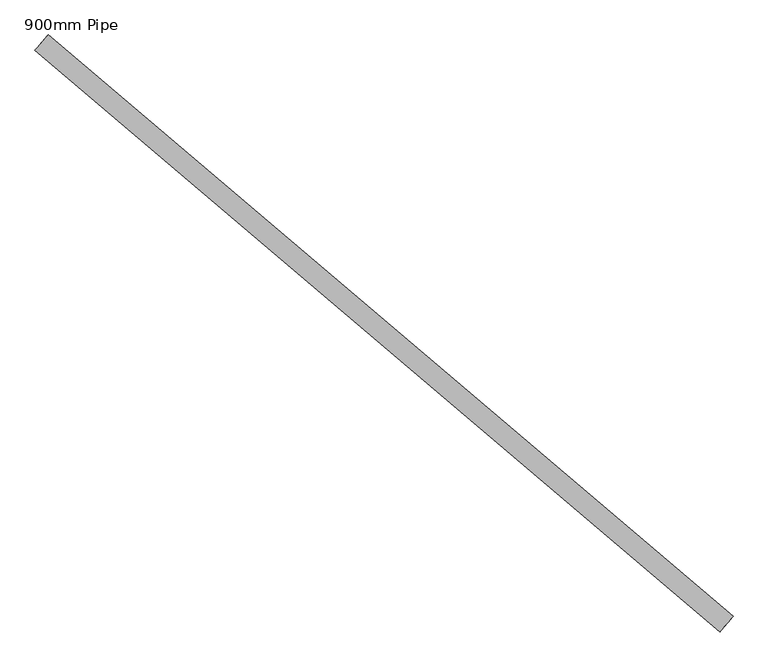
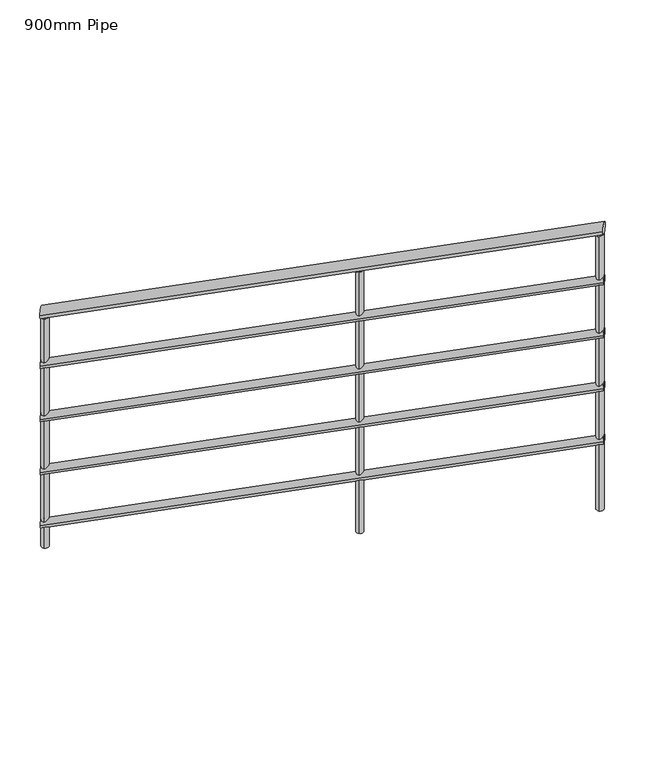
"""IFC4 building model written with IfcOpenShell, lengths in millimetres: railing geometry, 900mm Pipe."""

from ifc_helpers import new_model, si_unit, frame, origin, place, context, project, spatial, circle_curve, ellipse_curve, source, transform, mapped, element, save
from ifc_brep_helpers import plane_surface, cylinder_surface, advanced_brep


def railing_900mm_pipe_b922730c(model_context):
    return source(origin(), model_context, "Body", "AdvancedBrep", [
        advanced_brep(
        [(816791.1225773, 54066.4384189, 2058.386247), (816765.2283361, 54035.9509088, 2058.386247), (818136.5610301, 52923.7046358, 2596.2686), (818110.6667889, 52893.2171256, 2596.2686)],
        [
            (0, 1, ellipse_curve(frame((816778.1754567, 54051.1946639, 2058.386247), z_axis=(-0.7621877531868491, 0.647356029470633, 0.0), x_axis=(0.0, 0.0, -1.0)), 20.9078706, 20.0)),
            (1, 0, ellipse_curve(frame((816778.1754567, 54051.1946639, 2058.386247), z_axis=(-0.7621877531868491, 0.647356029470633, 0.0), x_axis=(0.0, 0.0, -1.0)), 20.9078706, 20.0)),
            (2, 3, ellipse_curve(frame((818123.6139095, 52908.4608807, 2596.2686), z_axis=(0.7621877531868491, -0.647356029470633, 0.0), x_axis=(0.0, 0.0, -1.0)), 20.9078706, 20.0)),
            (3, 2, ellipse_curve(frame((818123.6139095, 52908.4608807, 2596.2686), z_axis=(0.7621877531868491, -0.647356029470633, 0.0), x_axis=(0.0, 0.0, -1.0)), 20.9078706, 20.0)),
            (0, 2),
            (3, 1),
        ],
        [
            plane_surface(frame((816778.1754567, 54051.1946639, 2079.2941176), z_axis=(-0.7621877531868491, 0.647356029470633, 0.0), x_axis=(0.647356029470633, 0.7621877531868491, 0.0))),
            plane_surface(frame((818123.6139095, 52908.4608807, 2617.1764706), z_axis=(0.7621877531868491, -0.647356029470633, 0.0), x_axis=(0.647356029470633, 0.7621877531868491, 0.0))),
            cylinder_surface(frame((816782.6186743, 54047.4208645, 2060.1625663), z_axis=(-0.7290917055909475, 0.6192462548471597, -0.2914778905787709), x_axis=(-0.647356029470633, -0.762187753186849, 0.0)), 20.0),
        ],
        [
            (0, [[1, 2]]),
            (1, [[3, 4]]),
            (2, [[-1, 5, -4, 6]]),
            (2, [[-2, -6, -3, -5]]),
        ],
    ),
        advanced_brep(
        [(816787.8857972, 54062.6274802, 1863.6132147), (816768.4651163, 54039.7618476, 1863.6132147), (818133.3242499, 52919.893697, 2401.4955676), (818113.903569, 52897.0280644, 2401.4955676)],
        [
            (0, 1, ellipse_curve(frame((816778.1754567, 54051.1946639, 1863.6132147), z_axis=(-0.7621877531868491, 0.647356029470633, 0.0), x_axis=(0.0, 0.0, -1.0)), 15.680903, 15.0)),
            (1, 0, ellipse_curve(frame((816778.1754567, 54051.1946639, 1863.6132147), z_axis=(-0.7621877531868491, 0.647356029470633, 0.0), x_axis=(0.0, 0.0, -1.0)), 15.680903, 15.0)),
            (2, 3, ellipse_curve(frame((818123.6139095, 52908.4608807, 2401.4955676), z_axis=(0.7621877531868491, -0.647356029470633, 0.0), x_axis=(0.0, 0.0, -1.0)), 15.680903, 15.0)),
            (3, 2, ellipse_curve(frame((818123.6139095, 52908.4608807, 2401.4955676), z_axis=(0.7621877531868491, -0.647356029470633, 0.0), x_axis=(0.0, 0.0, -1.0)), 15.680903, 15.0)),
            (0, 2),
            (3, 1),
        ],
        [
            plane_surface(frame((816778.1754567, 54051.1946639, 1879.2941176), z_axis=(-0.7621877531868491, 0.647356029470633, 0.0), x_axis=(0.647356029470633, 0.7621877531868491, 0.0))),
            plane_surface(frame((818123.6139095, 52908.4608807, 2417.1764706), z_axis=(0.7621877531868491, -0.647356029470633, 0.0), x_axis=(0.647356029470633, 0.7621877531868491, 0.0))),
            cylinder_surface(frame((816781.5078699, 54048.3643143, 1864.9454542), z_axis=(-0.7290917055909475, 0.6192462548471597, -0.2914778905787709), x_axis=(-0.647356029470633, -0.762187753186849, 0.0)), 15.0),
        ],
        [
            (0, [[1, 2]]),
            (1, [[3, 4]]),
            (2, [[-1, 5, -4, 6]]),
            (2, [[-2, -6, -3, -5]]),
        ],
    ),
        advanced_brep(
        [(816787.8857972, 54062.6274802, 1663.6132147), (816768.4651163, 54039.7618476, 1663.6132147), (818133.3242499, 52919.893697, 2201.4955676), (818113.903569, 52897.0280644, 2201.4955676)],
        [
            (0, 1, ellipse_curve(frame((816778.1754567, 54051.1946639, 1663.6132147), z_axis=(-0.7621877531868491, 0.647356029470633, 0.0), x_axis=(0.0, 0.0, -1.0)), 15.680903, 15.0)),
            (1, 0, ellipse_curve(frame((816778.1754567, 54051.1946639, 1663.6132147), z_axis=(-0.7621877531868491, 0.647356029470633, 0.0), x_axis=(0.0, 0.0, -1.0)), 15.680903, 15.0)),
            (2, 3, ellipse_curve(frame((818123.6139095, 52908.4608807, 2201.4955676), z_axis=(0.7621877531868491, -0.647356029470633, 0.0), x_axis=(0.0, 0.0, -1.0)), 15.680903, 15.0)),
            (3, 2, ellipse_curve(frame((818123.6139095, 52908.4608807, 2201.4955676), z_axis=(0.7621877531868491, -0.647356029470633, 0.0), x_axis=(0.0, 0.0, -1.0)), 15.680903, 15.0)),
            (0, 2),
            (3, 1),
        ],
        [
            plane_surface(frame((816778.1754567, 54051.1946639, 1679.2941176), z_axis=(-0.7621877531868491, 0.647356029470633, 0.0), x_axis=(0.647356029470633, 0.7621877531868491, 0.0))),
            plane_surface(frame((818123.6139095, 52908.4608807, 2217.1764706), z_axis=(0.7621877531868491, -0.647356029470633, 0.0), x_axis=(0.647356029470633, 0.7621877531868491, 0.0))),
            cylinder_surface(frame((816781.5078699, 54048.3643143, 1664.9454542), z_axis=(-0.7290917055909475, 0.6192462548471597, -0.29147789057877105), x_axis=(-0.647356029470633, -0.762187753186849, 0.0)), 15.0),
        ],
        [
            (0, [[1, 2]]),
            (1, [[3, 4]]),
            (2, [[-1, 5, -4, 6]]),
            (2, [[-2, -6, -3, -5]]),
        ],
    ),
        advanced_brep(
        [(816787.8857972, 54062.6274802, 1463.6132147), (816768.4651163, 54039.7618476, 1463.6132147), (818133.3242499, 52919.893697, 2001.4955676), (818113.903569, 52897.0280644, 2001.4955676)],
        [
            (0, 1, ellipse_curve(frame((816778.1754567, 54051.1946639, 1463.6132147), z_axis=(-0.7621877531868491, 0.647356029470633, 0.0), x_axis=(0.0, 0.0, -1.0)), 15.680903, 15.0)),
            (1, 0, ellipse_curve(frame((816778.1754567, 54051.1946639, 1463.6132147), z_axis=(-0.7621877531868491, 0.647356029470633, 0.0), x_axis=(0.0, 0.0, -1.0)), 15.680903, 15.0)),
            (2, 3, ellipse_curve(frame((818123.6139095, 52908.4608807, 2001.4955676), z_axis=(0.7621877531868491, -0.647356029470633, 0.0), x_axis=(0.0, 0.0, -1.0)), 15.680903, 15.0)),
            (3, 2, ellipse_curve(frame((818123.6139095, 52908.4608807, 2001.4955676), z_axis=(0.7621877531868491, -0.647356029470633, 0.0), x_axis=(0.0, 0.0, -1.0)), 15.680903, 15.0)),
            (0, 2),
            (3, 1),
        ],
        [
            plane_surface(frame((816778.1754567, 54051.1946639, 1479.2941176), z_axis=(-0.7621877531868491, 0.647356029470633, 0.0), x_axis=(0.647356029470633, 0.7621877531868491, 0.0))),
            plane_surface(frame((818123.6139095, 52908.4608807, 2017.1764706), z_axis=(0.7621877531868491, -0.647356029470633, 0.0), x_axis=(0.647356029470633, 0.7621877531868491, 0.0))),
            cylinder_surface(frame((816781.5078699, 54048.3643143, 1464.9454542), z_axis=(-0.7290917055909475, 0.6192462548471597, -0.29147789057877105), x_axis=(-0.647356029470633, -0.762187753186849, 0.0)), 15.0),
        ],
        [
            (0, [[1, 2]]),
            (1, [[3, 4]]),
            (2, [[-1, 5, -4, 6]]),
            (2, [[-2, -6, -3, -5]]),
        ],
    ),
        advanced_brep(
        [(816787.8857972, 54062.6274802, 1263.6132147), (816768.4651163, 54039.7618476, 1263.6132147), (818133.3242499, 52919.893697, 1801.4955676), (818113.903569, 52897.0280644, 1801.4955676)],
        [
            (0, 1, ellipse_curve(frame((816778.1754567, 54051.1946639, 1263.6132147), z_axis=(-0.7621877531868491, 0.647356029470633, 0.0), x_axis=(0.0, 0.0, -1.0)), 15.680903, 15.0)),
            (1, 0, ellipse_curve(frame((816778.1754567, 54051.1946639, 1263.6132147), z_axis=(-0.7621877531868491, 0.647356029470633, 0.0), x_axis=(0.0, 0.0, -1.0)), 15.680903, 15.0)),
            (2, 3, ellipse_curve(frame((818123.6139095, 52908.4608807, 1801.4955676), z_axis=(0.7621877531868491, -0.647356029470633, 0.0), x_axis=(0.0, 0.0, -1.0)), 15.680903, 15.0)),
            (3, 2, ellipse_curve(frame((818123.6139095, 52908.4608807, 1801.4955676), z_axis=(0.7621877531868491, -0.647356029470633, 0.0), x_axis=(0.0, 0.0, -1.0)), 15.680903, 15.0)),
            (0, 2),
            (3, 1),
        ],
        [
            plane_surface(frame((816778.1754567, 54051.1946639, 1279.2941176), z_axis=(-0.7621877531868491, 0.647356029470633, 0.0), x_axis=(0.647356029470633, 0.7621877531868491, 0.0))),
            plane_surface(frame((818123.6139095, 52908.4608807, 1817.1764706), z_axis=(0.7621877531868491, -0.647356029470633, 0.0), x_axis=(0.647356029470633, 0.7621877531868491, 0.0))),
            cylinder_surface(frame((816781.5078699, 54048.3643143, 1264.9454542), z_axis=(-0.7290917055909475, 0.6192462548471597, -0.29147789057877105), x_axis=(-0.647356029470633, -0.762187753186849, 0.0)), 15.0),
        ],
        [
            (0, [[1, 2]]),
            (1, [[3, 4]]),
            (2, [[-1, 5, -4, 6]]),
            (2, [[-2, -6, -3, -5]]),
        ],
    ),
        advanced_brep(
        [(817532.2712596, 53394.3112875, 2342.1874779), (817532.2712596, 53394.3112875, 1358.5882353), (817548.4551603, 53413.3659813, 1358.5882353), (817548.4551603, 53413.3659813, 2342.1874779)],
        [
            (0, 1),
            (1, 2, circle_curve(frame((817540.3632099, 53403.8386344, 1358.5882353), z_axis=(0.0, 0.0, 1.0000000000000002), x_axis=(0.647356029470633, 0.7621877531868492, 0.0)), 12.5)),
            (2, 3),
            (3, 0, ellipse_curve(frame((817540.3632099, 53403.8386344, 2342.1874779), z_axis=(0.22216087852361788, -0.18868996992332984, -0.956577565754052), x_axis=(0.729091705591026, -0.6192462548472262, 0.2914778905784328)), 13.0674191, 12.5)),
            (0, 3, ellipse_curve(frame((817540.3632099, 53403.8386344, 2342.1874779), z_axis=(0.22216087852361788, -0.18868996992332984, -0.956577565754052), x_axis=(0.729091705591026, -0.6192462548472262, 0.2914778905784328)), 13.0674191, 12.5)),
            (2, 1, circle_curve(frame((817540.3632099, 53403.8386344, 1358.5882353), z_axis=(0.0, 0.0, 1.0000000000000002), x_axis=(0.647356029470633, 0.7621877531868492, 0.0)), 12.5)),
        ],
        [
            cylinder_surface(frame((817540.3632099, 53403.8386344, 1258.5882353), z_axis=(0.0, 0.0, 1.0000000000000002), x_axis=(0.647356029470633, 0.7621877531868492, 0.0)), 12.5),
            plane_surface(frame((817575.6018045, 53406.7094275, 2349.8052054), z_axis=(-0.22216087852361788, 0.18868996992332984, 0.956577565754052), x_axis=(-0.647356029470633, -0.7621877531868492, 0.0))),
            plane_surface(frame((817537.4924168, 53439.077229, 1358.5882353), z_axis=(0.0, 0.0, -1.0000000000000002), x_axis=(-0.647356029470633, -0.7621877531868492, 0.0))),
        ],
        [
            (0, [[1, 2, 3, 4]]),
            (0, [[-1, 5, -3, 6]]),
            (1, [[-4, -5]]),
            (2, [[-2, -6]]),
        ],
    ),
        advanced_brep(
        [(818105.9946122, 52907.0254842, 2571.5518655), (818105.9946122, 52907.0254842, 1537.8823529), (818122.1785129, 52926.080178, 1537.8823529), (818122.1785129, 52926.080178, 2571.5518655)],
        [
            (0, 1),
            (1, 2, circle_curve(frame((818114.0865626, 52916.5528311, 1537.8823529), z_axis=(0.0, 0.0, 1.0000000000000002), x_axis=(0.647356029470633, 0.7621877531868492, 0.0)), 12.5)),
            (2, 3),
            (3, 0, ellipse_curve(frame((818114.0865626, 52916.5528311, 2571.5518655), z_axis=(0.22216087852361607, -0.1886899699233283, -0.9565775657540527), x_axis=(0.7290917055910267, -0.6192462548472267, 0.29147789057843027)), 13.0674191, 12.5)),
            (0, 3, ellipse_curve(frame((818114.0865626, 52916.5528311, 2571.5518655), z_axis=(0.22216087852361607, -0.1886899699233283, -0.9565775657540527), x_axis=(0.7290917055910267, -0.6192462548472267, 0.29147789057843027)), 13.0674191, 12.5)),
            (2, 1, circle_curve(frame((818114.0865626, 52916.5528311, 1537.8823529), z_axis=(0.0, 0.0, 1.0000000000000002), x_axis=(0.647356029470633, 0.7621877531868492, 0.0)), 12.5)),
        ],
        [
            cylinder_surface(frame((818114.0865626, 52916.5528311, 1437.8823529), z_axis=(0.0, 0.0, 1.0000000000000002), x_axis=(0.647356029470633, 0.7621877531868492, 0.0)), 12.5),
            plane_surface(frame((818149.3251571, 52919.4236242, 2579.1695931), z_axis=(-0.22216087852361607, 0.1886899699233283, 0.9565775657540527), x_axis=(-0.647356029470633, -0.7621877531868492, 0.0))),
            plane_surface(frame((818111.2157695, 52951.7914256, 1537.8823529), z_axis=(0.0, 0.0, -1.0000000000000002), x_axis=(-0.647356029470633, -0.7621877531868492, 0.0))),
        ],
        [
            (0, [[1, 2, 3, 4]]),
            (0, [[-1, 5, -3, 6]]),
            (1, [[-4, -5]]),
            (2, [[-2, -6]]),
        ],
    ),
        advanced_brep(
        [(816779.6108533, 54033.5753666, 2041.2872401), (816779.6108533, 54033.5753666, 1179.2941176), (816795.794754, 54052.6300604, 1179.2941176), (816795.794754, 54052.6300604, 2041.2872401)],
        [
            (0, 1),
            (1, 2, circle_curve(frame((816787.7028036, 54043.1027135, 1179.2941176), z_axis=(0.0, 0.0, 1.0000000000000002), x_axis=(0.647356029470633, 0.7621877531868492, 0.0)), 12.5)),
            (2, 3),
            (3, 0, ellipse_curve(frame((816787.7028036, 54043.1027135, 2041.2872401), z_axis=(0.22216087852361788, -0.18868996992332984, -0.956577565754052), x_axis=(0.729091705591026, -0.6192462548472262, 0.2914778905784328)), 13.0674191, 12.5)),
            (0, 3, ellipse_curve(frame((816787.7028036, 54043.1027135, 2041.2872401), z_axis=(0.22216087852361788, -0.18868996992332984, -0.956577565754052), x_axis=(0.729091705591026, -0.6192462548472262, 0.2914778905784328)), 13.0674191, 12.5)),
            (2, 1, circle_curve(frame((816787.7028036, 54043.1027135, 1179.2941176), z_axis=(0.0, 0.0, 1.0000000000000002), x_axis=(0.647356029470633, 0.7621877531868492, 0.0)), 12.5)),
        ],
        [
            cylinder_surface(frame((816787.7028036, 54043.1027135, 1079.2941176), z_axis=(0.0, 0.0, 1.0000000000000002), x_axis=(0.647356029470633, 0.7621877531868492, 0.0)), 12.5),
            plane_surface(frame((816822.9413982, 54045.9735066, 2048.9049677), z_axis=(-0.22216087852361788, 0.18868996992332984, 0.956577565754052), x_axis=(-0.647356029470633, -0.7621877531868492, 0.0))),
            plane_surface(frame((816784.8320106, 54078.3413081, 1179.2941176), z_axis=(0.0, 0.0, -1.0000000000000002), x_axis=(-0.647356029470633, -0.7621877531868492, 0.0))),
        ],
        [
            (0, [[1, 2, 3, 4]]),
            (0, [[-1, 5, -3, 6]]),
            (1, [[-4, -5]]),
            (2, [[-2, -6]]),
        ],
    ),
    ])


if __name__ == "__main__":
    model = new_model("IFC4")
    model_context = context("Model", 3, world=origin())
    ifc_project = project(units=[si_unit("LENGTHUNIT", "METRE", prefix="MILLI")], contexts=[model_context])
    site = spatial("IfcSite", under=ifc_project)
    building = spatial("IfcBuilding", under=site)
    placement = place(None, origin())
    railing_900mm_pipe_shape = railing_900mm_pipe_b922730c(model_context)
    element("IfcRailing", 1, ObjectType="900mm Pipe", at=placement, inside=building, context=model_context, shape_type="MappedRepresentation", body=[
        mapped(railing_900mm_pipe_shape, transform((0.0, 0.0, 0.0), x_axis=(1.0, 0.0, 0.0), y_axis=(0.0, 1.0, 0.0), z_axis=(0.0, 0.0, 1.0))),
    ])
    save(model, "model.ifc")
